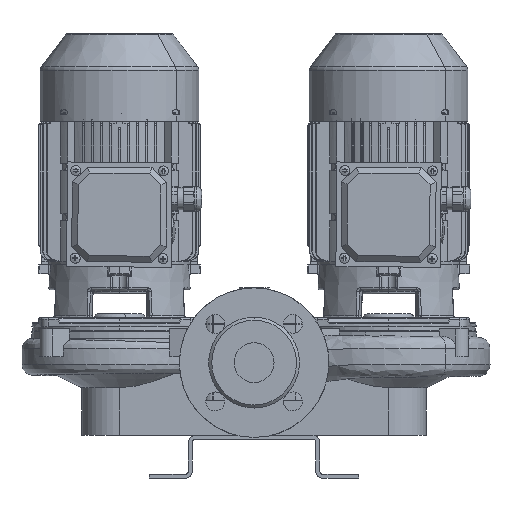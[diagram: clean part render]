
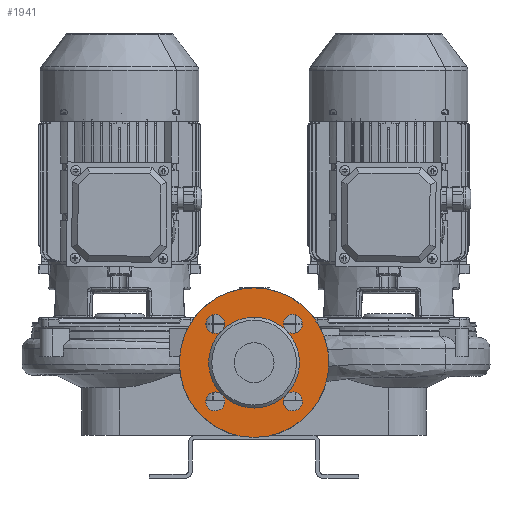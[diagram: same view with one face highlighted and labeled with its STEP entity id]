
A CAD part, front view. The second image highlights one B-rep face of the part: STEP entity #1941.
In plain terms, the highlighted planar face has unit normal (0, -1, 0) as drawn and (0, 1, 0) by its records, which use the part's own axes.
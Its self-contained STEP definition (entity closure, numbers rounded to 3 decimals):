
#1941=ADVANCED_FACE('',(#3767,#3768),#3769,.T.);
#1985=EDGE_CURVE('',#3837,#3838,#3839,.T.);
#1987=EDGE_CURVE('',#3841,#3837,#3842,.T.);
#1989=EDGE_CURVE('',#3844,#3841,#3845,.T.);
#1993=EDGE_CURVE('',#3851,#3852,#3853,.T.);
#1997=EDGE_CURVE('',#3859,#3860,#3861,.T.);
#2001=EDGE_CURVE('',#3867,#3868,#3869,.T.);
#2005=EDGE_CURVE('',#3875,#3876,#3877,.T.);
#2009=EDGE_CURVE('',#3883,#3884,#3885,.T.);
#2239=EDGE_CURVE('',#3884,#3883,#4234,.T.);
#2243=EDGE_CURVE('',#3841,#3875,#4238,.T.);
#2245=EDGE_CURVE('',#3876,#3841,#4240,.T.);
#2247=EDGE_CURVE('',#3837,#3867,#4242,.T.);
#2249=EDGE_CURVE('',#3868,#3837,#4244,.T.);
#2251=EDGE_CURVE('',#4246,#3859,#4247,.T.);
#2253=EDGE_CURVE('',#3860,#4246,#4249,.T.);
#2255=EDGE_CURVE('',#4251,#3851,#4252,.T.);
#2257=EDGE_CURVE('',#3852,#4251,#4254,.T.);
#2259=EDGE_CURVE('',#3838,#4246,#4256,.T.);
#2261=EDGE_CURVE('',#4246,#4251,#4258,.T.);
#2263=EDGE_CURVE('',#4251,#3844,#4260,.T.);
#3767=FACE_OUTER_BOUND('',#10008,.T.);
#3768=FACE_BOUND('',#10009,.T.);
#3769=PLANE('',#10010);
#3837=VERTEX_POINT('',#11044);
#3838=VERTEX_POINT('',#11045);
#3839=CIRCLE('',#11046,45.5);
#3841=VERTEX_POINT('',#11049);
#3842=CIRCLE('',#11050,45.5);
#3844=VERTEX_POINT('',#11053);
#3845=CIRCLE('',#11054,45.5);
#3851=VERTEX_POINT('',#11062);
#3852=VERTEX_POINT('',#11063);
#3853=CIRCLE('',#11064,9.5);
#3859=VERTEX_POINT('',#11072);
#3860=VERTEX_POINT('',#11073);
#3861=CIRCLE('',#11074,9.5);
#3867=VERTEX_POINT('',#11082);
#3868=VERTEX_POINT('',#11083);
#3869=CIRCLE('',#11084,9.5);
#3875=VERTEX_POINT('',#11092);
#3876=VERTEX_POINT('',#11093);
#3877=CIRCLE('',#11094,9.5);
#3883=VERTEX_POINT('',#11102);
#3884=VERTEX_POINT('',#11103);
#3885=CIRCLE('',#11104,75.0);
#4234=CIRCLE('',#11681,75.0);
#4238=CIRCLE('',#11687,9.5);
#4240=CIRCLE('',#11690,9.5);
#4242=CIRCLE('',#11693,9.5);
#4244=CIRCLE('',#11696,9.5);
#4246=VERTEX_POINT('',#11699);
#4247=CIRCLE('',#11700,9.5);
#4249=CIRCLE('',#11703,9.5);
#4251=VERTEX_POINT('',#11706);
#4252=CIRCLE('',#11707,9.5);
#4254=CIRCLE('',#11710,9.5);
#4256=CIRCLE('',#11713,45.5);
#4258=CIRCLE('',#11716,45.5);
#4260=CIRCLE('',#11719,45.5);
#10008=EDGE_LOOP('',(#18356,#18357));
#10009=EDGE_LOOP('',(#18358,#18359,#18360,#18361,#18362,#18363,#18364,#18365,#18366,#18367,#18368,#18369,#18370,#18371,#18372,#18373,#18374,#18375));
#10010=AXIS2_PLACEMENT_3D('',#18376,#18377,#18378);
#11044=CARTESIAN_POINT('',(32.173,142.0,26.173));
#11045=CARTESIAN_POINT('',(0.,142.0,39.5));
#11046=AXIS2_PLACEMENT_3D('',#18555,#18556,#18557);
#11049=CARTESIAN_POINT('',(32.173,142.0,-38.173));
#11050=AXIS2_PLACEMENT_3D('',#18558,#18559,#18560);
#11053=CARTESIAN_POINT('',(0.,142.0,-51.5));
#11054=AXIS2_PLACEMENT_3D('',#18561,#18562,#18563);
#11062=CARTESIAN_POINT('',(-44.25,142.0,-37.047));
#11063=CARTESIAN_POINT('',(-33.532,142.0,-52.735));
#11064=AXIS2_PLACEMENT_3D('',#18567,#18568,#18569);
#11072=CARTESIAN_POINT('',(-31.047,142.,38.25));
#11073=CARTESIAN_POINT('',(-46.735,142.,27.532));
#11074=AXIS2_PLACEMENT_3D('',#18573,#18574,#18575);
#11082=CARTESIAN_POINT('',(44.25,142.,25.047));
#11083=CARTESIAN_POINT('',(33.532,142.,40.735));
#11084=AXIS2_PLACEMENT_3D('',#18579,#18580,#18581);
#11092=CARTESIAN_POINT('',(31.047,142.0,-50.25));
#11093=CARTESIAN_POINT('',(46.735,142.0,-39.532));
#11094=AXIS2_PLACEMENT_3D('',#18585,#18586,#18587);
#11102=CARTESIAN_POINT('',(0.,142.0,-81.0));
#11103=CARTESIAN_POINT('',(0.,142.0,69.0));
#11104=AXIS2_PLACEMENT_3D('',#18591,#18592,#18593);
#11681=AXIS2_PLACEMENT_3D('',#18848,#18849,#18850);
#11687=AXIS2_PLACEMENT_3D('',#18854,#18855,#18856);
#11690=AXIS2_PLACEMENT_3D('',#18857,#18858,#18859);
#11693=AXIS2_PLACEMENT_3D('',#18860,#18861,#18862);
#11696=AXIS2_PLACEMENT_3D('',#18863,#18864,#18865);
#11699=CARTESIAN_POINT('',(-32.173,142.0,26.173));
#11700=AXIS2_PLACEMENT_3D('',#18866,#18867,#18868);
#11703=AXIS2_PLACEMENT_3D('',#18869,#18870,#18871);
#11706=CARTESIAN_POINT('',(-32.173,142.0,-38.173));
#11707=AXIS2_PLACEMENT_3D('',#18872,#18873,#18874);
#11710=AXIS2_PLACEMENT_3D('',#18875,#18876,#18877);
#11713=AXIS2_PLACEMENT_3D('',#18878,#18879,#18880);
#11716=AXIS2_PLACEMENT_3D('',#18881,#18882,#18883);
#11719=AXIS2_PLACEMENT_3D('',#18884,#18885,#18886);
#18356=ORIENTED_EDGE('',*,*,#2239,.F.);
#18357=ORIENTED_EDGE('',*,*,#2009,.F.);
#18358=ORIENTED_EDGE('',*,*,#1985,.T.);
#18359=ORIENTED_EDGE('',*,*,#2259,.T.);
#18360=ORIENTED_EDGE('',*,*,#2251,.T.);
#18361=ORIENTED_EDGE('',*,*,#1997,.T.);
#18362=ORIENTED_EDGE('',*,*,#2253,.T.);
#18363=ORIENTED_EDGE('',*,*,#2261,.T.);
#18364=ORIENTED_EDGE('',*,*,#2255,.T.);
#18365=ORIENTED_EDGE('',*,*,#1993,.T.);
#18366=ORIENTED_EDGE('',*,*,#2257,.T.);
#18367=ORIENTED_EDGE('',*,*,#2263,.T.);
#18368=ORIENTED_EDGE('',*,*,#1989,.T.);
#18369=ORIENTED_EDGE('',*,*,#2243,.T.);
#18370=ORIENTED_EDGE('',*,*,#2005,.T.);
#18371=ORIENTED_EDGE('',*,*,#2245,.T.);
#18372=ORIENTED_EDGE('',*,*,#1987,.T.);
#18373=ORIENTED_EDGE('',*,*,#2247,.T.);
#18374=ORIENTED_EDGE('',*,*,#2001,.T.);
#18375=ORIENTED_EDGE('',*,*,#2249,.T.);
#18376=CARTESIAN_POINT('',(0.,142.0,-66.25));
#18377=DIRECTION('',(0.0,1.0,0.0));
#18378=DIRECTION('',(0.0,0.0,1.0));
#18555=CARTESIAN_POINT('',(0.,142.0,-6.));
#18556=DIRECTION('',(0.0,-1.0,0.0));
#18557=DIRECTION('',(0.0,0.0,-1.0));
#18558=CARTESIAN_POINT('',(0.,142.0,-6.));
#18559=DIRECTION('',(0.0,-1.0,0.0));
#18560=DIRECTION('',(0.0,0.0,-1.0));
#18561=CARTESIAN_POINT('',(0.,142.0,-6.));
#18562=DIRECTION('',(0.0,-1.0,0.0));
#18563=DIRECTION('',(0.0,0.0,-1.0));
#18567=CARTESIAN_POINT('',(-38.891,142.0,-44.891));
#18568=DIRECTION('',(0.0,-1.0,0.0));
#18569=DIRECTION('',(-0.564,0.0,0.826));
#18573=CARTESIAN_POINT('',(-38.891,142.,32.891));
#18574=DIRECTION('',(0.0,-1.0,0.0));
#18575=DIRECTION('',(0.826,0.0,0.564));
#18579=CARTESIAN_POINT('',(38.891,142.,32.891));
#18580=DIRECTION('',(0.0,-1.0,0.0));
#18581=DIRECTION('',(0.564,0.0,-0.826));
#18585=CARTESIAN_POINT('',(38.891,142.0,-44.891));
#18586=DIRECTION('',(0.0,-1.0,-0.0));
#18587=DIRECTION('',(-0.826,0.0,-0.564));
#18591=CARTESIAN_POINT('',(0.,142.0,-6.));
#18592=DIRECTION('',(0.0,-1.0,0.0));
#18593=DIRECTION('',(0.0,0.0,-1.0));
#18848=CARTESIAN_POINT('',(0.,142.0,-6.));
#18849=DIRECTION('',(0.0,-1.0,0.0));
#18850=DIRECTION('',(0.0,0.0,-1.0));
#18854=CARTESIAN_POINT('',(38.891,142.0,-44.891));
#18855=DIRECTION('',(0.0,-1.0,-0.0));
#18856=DIRECTION('',(-0.826,0.0,-0.564));
#18857=CARTESIAN_POINT('',(38.891,142.0,-44.891));
#18858=DIRECTION('',(0.0,-1.0,-0.0));
#18859=DIRECTION('',(-0.826,0.0,-0.564));
#18860=CARTESIAN_POINT('',(38.891,142.,32.891));
#18861=DIRECTION('',(0.0,-1.0,0.0));
#18862=DIRECTION('',(0.564,0.0,-0.826));
#18863=CARTESIAN_POINT('',(38.891,142.,32.891));
#18864=DIRECTION('',(0.0,-1.0,0.0));
#18865=DIRECTION('',(0.564,0.0,-0.826));
#18866=CARTESIAN_POINT('',(-38.891,142.,32.891));
#18867=DIRECTION('',(0.0,-1.0,0.0));
#18868=DIRECTION('',(0.826,0.0,0.564));
#18869=CARTESIAN_POINT('',(-38.891,142.,32.891));
#18870=DIRECTION('',(0.0,-1.0,0.0));
#18871=DIRECTION('',(0.826,0.0,0.564));
#18872=CARTESIAN_POINT('',(-38.891,142.0,-44.891));
#18873=DIRECTION('',(0.0,-1.0,0.0));
#18874=DIRECTION('',(-0.564,0.0,0.826));
#18875=CARTESIAN_POINT('',(-38.891,142.0,-44.891));
#18876=DIRECTION('',(0.0,-1.0,0.0));
#18877=DIRECTION('',(-0.564,0.0,0.826));
#18878=CARTESIAN_POINT('',(0.,142.0,-6.));
#18879=DIRECTION('',(0.0,-1.0,0.0));
#18880=DIRECTION('',(0.0,0.0,-1.0));
#18881=CARTESIAN_POINT('',(0.,142.0,-6.));
#18882=DIRECTION('',(0.0,-1.0,0.0));
#18883=DIRECTION('',(0.0,0.0,-1.0));
#18884=CARTESIAN_POINT('',(0.,142.0,-6.));
#18885=DIRECTION('',(0.0,-1.0,0.0));
#18886=DIRECTION('',(0.0,0.0,-1.0));
